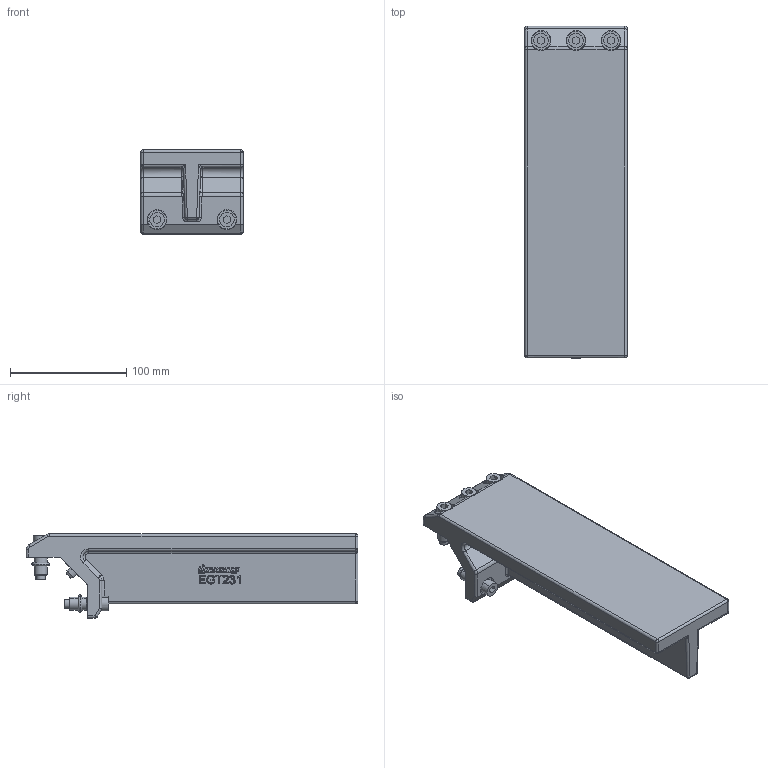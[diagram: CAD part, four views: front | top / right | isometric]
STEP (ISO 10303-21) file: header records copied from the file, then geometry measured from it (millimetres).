
FILE_DESCRIPTION(('CATIA V5 STEP Exchange'),'2;1');
FILE_NAME('C:\Users\User\Desktop\stp\EGT231.stp','2017-07-21T01:38:08+00:00',('none'),('none'),'CATIA Version 5 Release 21 GA (IN-10)','CATIA V5 STEP AP203','none');
FILE_SCHEMA(('CONFIG_CONTROL_DESIGN'));
Length unit declared in the file: millimetre
Products named in the file (1): EGT231
Bounding box: 88 x 285 x 72.5 mm (x, y, z)
Volume: 598117.4 mm3; surface area: 107765.8 mm2
Topology: 29 solids, 29 shells, 1159 faces, 3126 edges, 2034 vertices
Faces by surface type: plane 830, cylinder 145, extrusion 100, cone 32, torus 30, sphere 16, bspline 6
Entity records: 37409 total; most frequent: CARTESIAN_POINT 9059, ORIENTED_EDGE 6216, DIRECTION 4997, EDGE_CURVE 3108, VECTOR 2598, LINE 2498, VERTEX_POINT 2034, AXIS2_PLACEMENT_3D 1372
